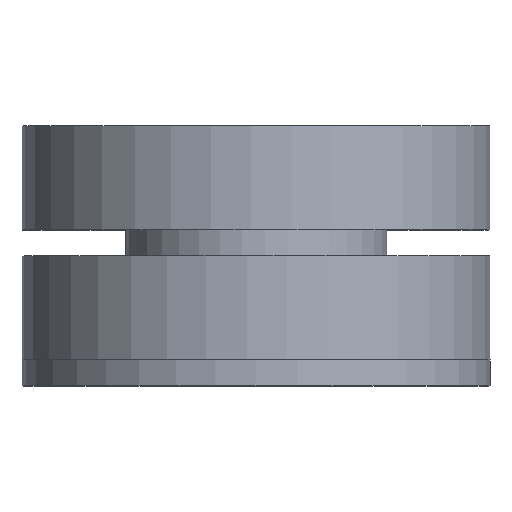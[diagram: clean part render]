
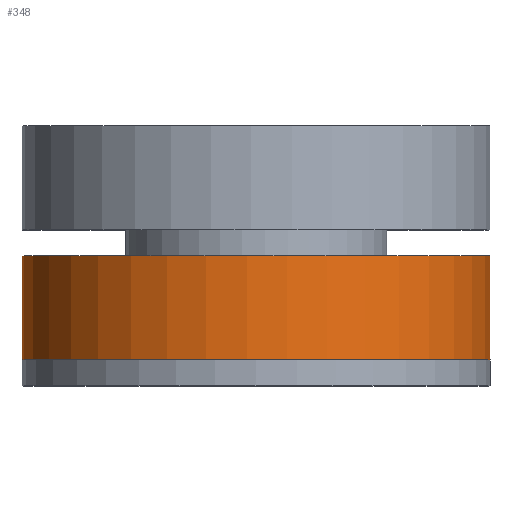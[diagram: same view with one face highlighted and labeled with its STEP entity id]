
A CAD part, top view. The second image highlights one B-rep face of the part: STEP entity #348.
In plain terms, the highlighted cylindrical face has radius 28.575 mm (diameter 57.15 mm), a full revolution.
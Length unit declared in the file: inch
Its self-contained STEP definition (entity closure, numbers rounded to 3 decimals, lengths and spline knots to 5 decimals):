
#321=CARTESIAN_POINT('',(0.0,0.0,0.0));
#322=DIRECTION('',(0.0,0.0,1.0));
#323=DIRECTION('',(-1.0,0.0,0.0));
#324=AXIS2_PLACEMENT_3D('',#321,#322,#323);
#325=CYLINDRICAL_SURFACE('',#324,1.125);
#326=CARTESIAN_POINT('',(1.125,0.,0.5));
#327=VERTEX_POINT('',#326);
#328=CARTESIAN_POINT('',(0.0,0.0,0.5));
#329=DIRECTION('',(0.0,0.0,-1.0));
#330=DIRECTION('',(-1.0,0.0,0.0));
#331=AXIS2_PLACEMENT_3D('',#328,#329,#330);
#332=CIRCLE('',#331,1.125);
#333=EDGE_CURVE('',#327,#327,#332,.T.);
#334=ORIENTED_EDGE('',*,*,#333,.T.);
#335=EDGE_LOOP('',(#334));
#336=FACE_OUTER_BOUND('',#335,.T.);
#337=CARTESIAN_POINT('',(1.125,0.,0.0));
#338=VERTEX_POINT('',#337);
#339=CARTESIAN_POINT('',(0.0,0.0,0.0));
#340=DIRECTION('',(0.0,0.0,-1.0));
#341=DIRECTION('',(-1.0,0.0,0.0));
#342=AXIS2_PLACEMENT_3D('',#339,#340,#341);
#343=CIRCLE('',#342,1.125);
#344=EDGE_CURVE('',#338,#338,#343,.T.);
#345=ORIENTED_EDGE('',*,*,#344,.F.);
#346=EDGE_LOOP('',(#345));
#347=FACE_BOUND('',#346,.T.);
#348=ADVANCED_FACE('',(#336,#347),#325,.T.);
